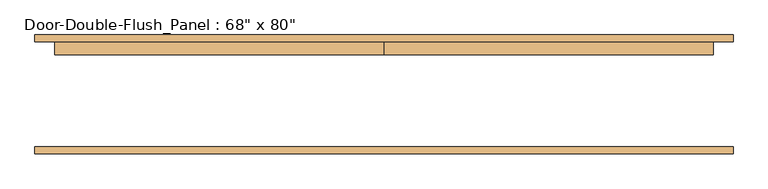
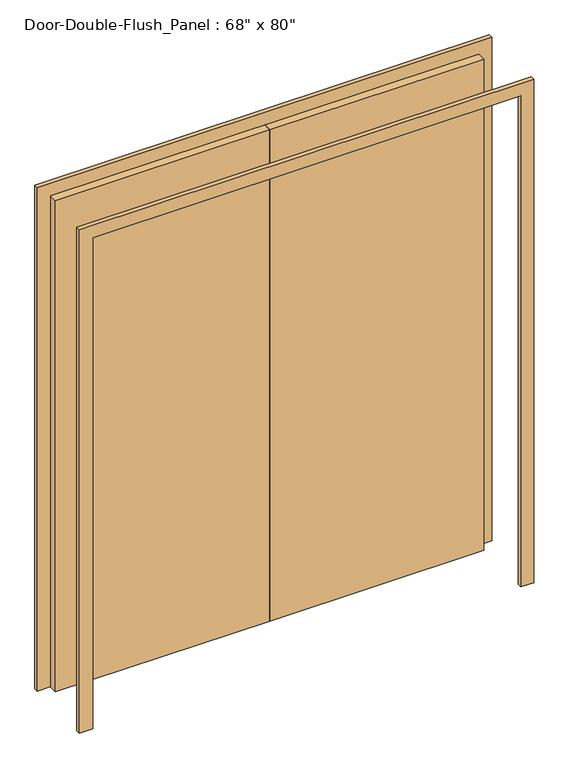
"""IFC4 building model written with IfcOpenShell, lengths in millimetres: door geometry."""

from ifc_helpers import new_model, si_unit, frame, origin, origin_with_axes, place, context, project, spatial, polyline, outline, extrude, source, transform, mapped, element, save


def door_19680be1(model_context):
    return source(origin(), model_context, "Body", "SweptSolid", [
        extrude(outline(polyline([(3032.0, -1250.0), (3032.0, 1250.0), (0.0, 1250.0), (0.0, 1326.2), (3108.2, 1326.2), (3108.2, -1326.2), (0.0, -1326.2), (0.0, -1250.0), (3032.0, -1250.0)])), frame((0.0, -225.4, 0.0), z_axis=(0.0, 1.0, 0.0), x_axis=(0.0, 0.0, 1.0)), (0.0, 0.0, 1.0), 25.4),
        extrude(outline(polyline([(3032.0, -1250.0), (3032.0, 1250.0), (0.0, 1250.0), (0.0, 1326.2), (3108.2, 1326.2), (3108.2, -1326.2), (0.0, -1326.2), (0.0, -1250.0), (3032.0, -1250.0)])), frame((0.0, 200.0, 0.0), z_axis=(0.0, 1.0, 0.0), x_axis=(0.0, 0.0, 1.0)), (0.0, 0.0, 1.0), 25.4),
        extrude(outline(polyline([(0.0, 200.0), (1250.0, 200.0), (1250.0, 149.2), (0.0, 149.2), (0.0, 200.0)])), origin_with_axes(), (0.0, 0.0, 1.0), 3032.0),
        extrude(outline(polyline([(-1250.0, 200.0), (0.0, 200.0), (0.0, 149.2), (-1250.0, 149.2), (-1250.0, 200.0)])), origin_with_axes(), (0.0, 0.0, 1.0), 3032.0),
    ])


if __name__ == "__main__":
    model = new_model("IFC4")
    model_context = context("Model", 3, world=origin())
    ifc_project = project(units=[si_unit("LENGTHUNIT", "METRE", prefix="MILLI")], contexts=[model_context])
    site = spatial("IfcSite", under=ifc_project)
    building = spatial("IfcBuilding", under=site)
    placement = place(None, origin())
    door_shape = door_19680be1(model_context)
    element("IfcDoor", 1, ObjectType="Door-Double-Flush_Panel : 68\" x 80\"", at=placement, inside=building, context=model_context, shape_type="MappedRepresentation", body=[
        mapped(door_shape, transform((0.0, 0.0, 0.0), x_axis=(1.0, 0.0, 0.0), y_axis=(0.0, 1.0, 0.0), z_axis=(0.0, 0.0, 1.0))),
    ])
    save(model, "model.ifc")
